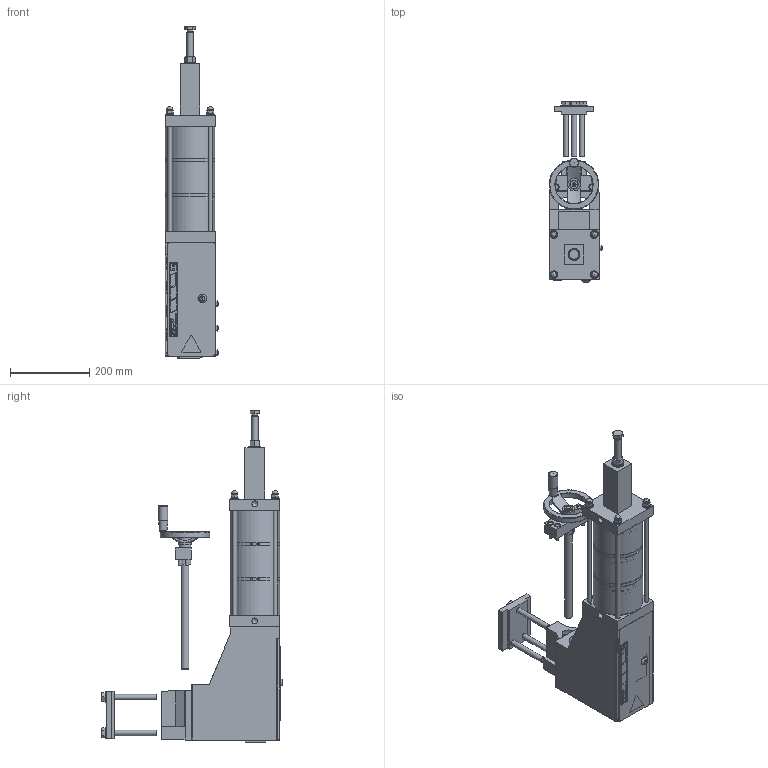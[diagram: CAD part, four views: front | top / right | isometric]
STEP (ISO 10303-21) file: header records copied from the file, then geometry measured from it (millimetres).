
FILE_DESCRIPTION(/* description */ (''),/* implementation_level */ '2;1');
FILE_NAME(/* name */ 'P:\CAD-Daten-für-Kunden\03_Pressen LP\03_LP Presseinheiten\Neues Spannstück\PEH LP 20kN Hub60 G0500.stp',/* time_stamp */ '2022-10-17T13:00:15+02:00',/* author */ ('gsp'),/* organization */ (''),/* preprocessor_version */ 'ST-DEVELOPER v18',/* originating_system */ 'Autodesk Inventor 2020',/* authorisation */ '');
FILE_SCHEMA (('AUTOMOTIVE_DESIGN { 1 0 10303 214 3 1 1 }'));
Products named in the file (6): PEH LP 20kN Hub60 G0500; Führungseinheit_LP_G0500_ohne_Schlitten_ANR17953; Schlittendummy_LP_G0500_ANR34912; Spannplatte G0500; LP_Zylinder_20kN_Hub60_ANR17978; Stellspindel G0500
Assembly tree (5 placements, depth 2):
  PEH LP 20kN Hub60 G0500
    Führungseinheit_LP_G0500_ohne_Schlitten_ANR17953
    Schlittendummy_LP_G0500_ANR34912
    Spannplatte G0500
    LP_Zylinder_20kN_Hub60_ANR17978
    Stellspindel G0500
Bounding box: 135.87 x 454.79 x 836.5 mm (x, y, z)
Volume: 11497576.4 mm3; surface area: 1338548.6 mm2
Topology: 87 solids, 104 shells, 6806 faces, 18376 edges, 12288 vertices
Faces by surface type: plane 3551, bspline 2522, cylinder 415, cone 251, torus 58, sphere 9
Full cylindrical faces by diameter (mm): 2 x10, 2.1 x4, 3 x1, 3.242 x5, 4.134 x6, 4.917 x5, 5 x15, 5.1 x4, 5.3 x1, 5.5 x14, 6 x12, 6.25 x4, 6.3 x4, 6.4 x4, 6.647 x5, 6.917 x1, 7 x12, 7.3 x4, 8 x13, 8.376 x8, 8.4 x3, 8.5 x6, 9 x3, 9.43 x9, 10 x17, 10.106 x3, 10.5 x8, 11 x14, 11.053 x1, 11.835 x3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
Entity records: 233212 total; most frequent: CARTESIAN_POINT 71509, ORIENTED_EDGE 36602, DIRECTION 23015, EDGE_CURVE 18301, VERTEX_POINT 12288, LINE 11009, VECTOR 11009, EDGE_LOOP 7616
